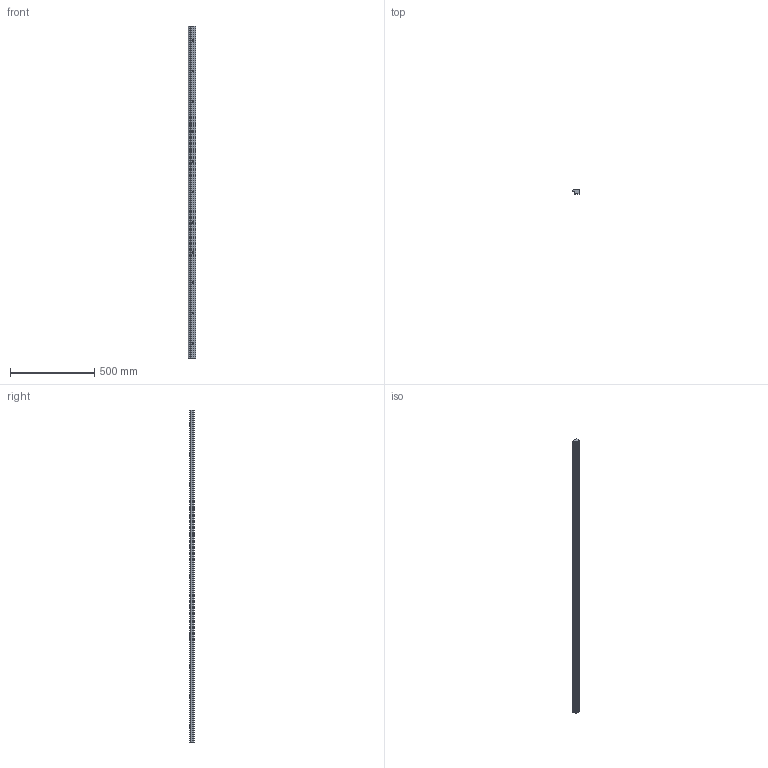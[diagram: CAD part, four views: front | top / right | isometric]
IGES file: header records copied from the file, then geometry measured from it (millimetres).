
Start section: 3D InterOp IGES (v. 2019 1.0.2), Spatial Corp. Copyright (c) 1999-2017.
Global section: file name: NLE L1976 P3.igs; native system: Spatial Corp.; preprocessor: 3D InterOp GENERIC/IGES 3.0; author: Noname; organization: Noname; date: 20220704.105724; units: millimetre
Bounding box: 43.33 x 24.41 x 1976 mm (x, y, z)
Surface area: 282367.6 mm2 (no closed solid volume)
Topology: 0 solids, 0 shells, 78 faces, 390 edges, 390 vertices
Faces by surface type: revolution 54, extrusion 24
